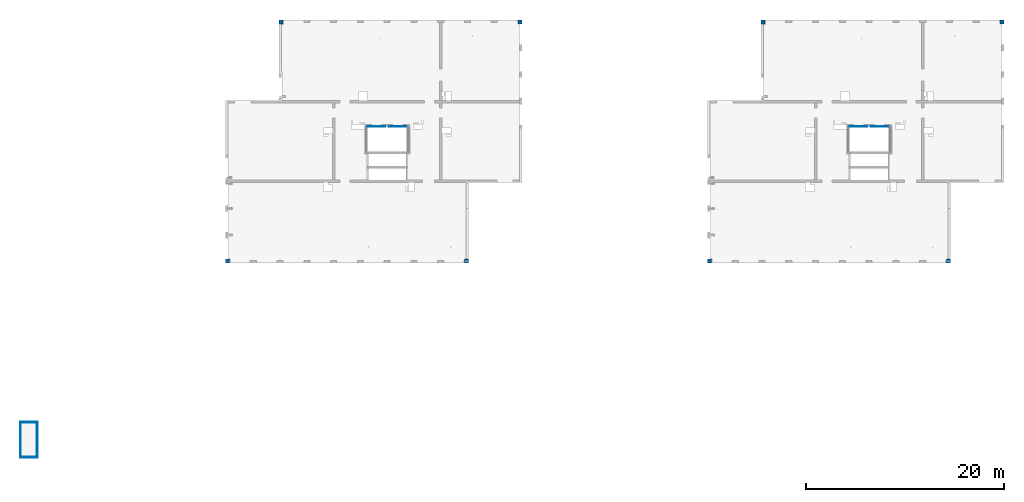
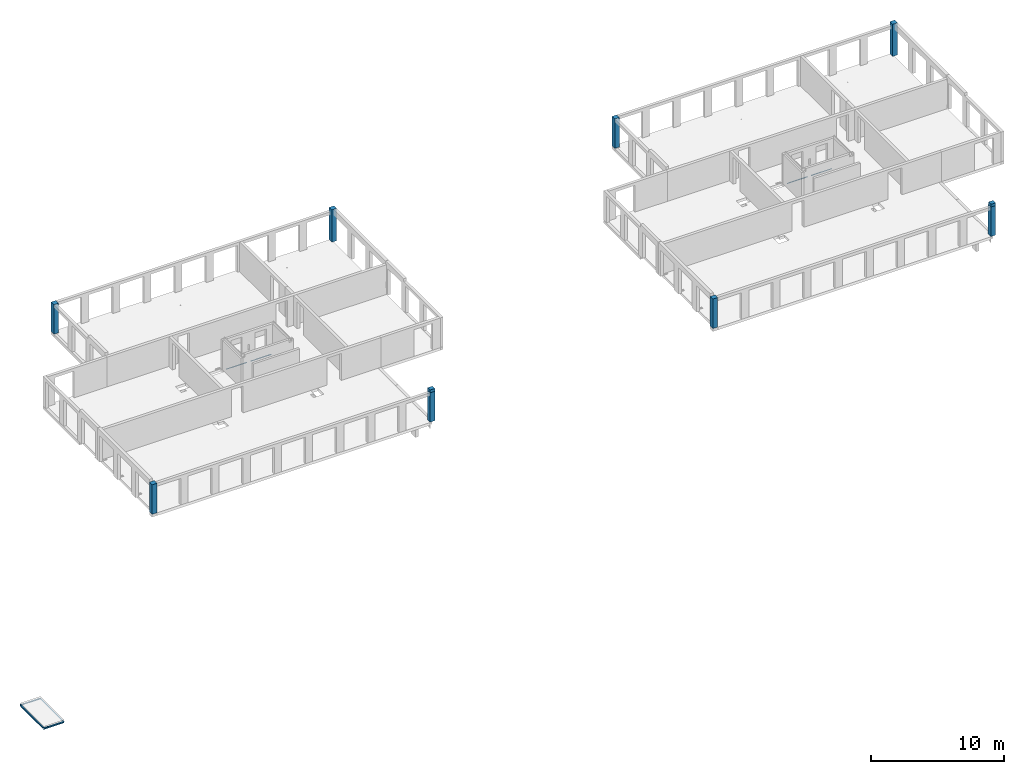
# One storey, part 1 of 12: 10 columns, 8 beams.
"""IFC2X3 building model written with IfcOpenShell, lengths in millimetres."""

from ifc_helpers import new_model, entity, si_unit, converted_unit, derived_unit, direction, frame, frame_2d, origin, origin_2d_with_axis, place, context, subcontext, project, spatial, polyline, circle_curve, parameter, trimmed, segment, composite_curve, rectangle, outline, extrude, source, transform, mapped, material, type_object, type_shapes, element, save


model = new_model("IFC2X3")

# Units and contexts
model_context = context("Model", 3, precision=0.01, world=origin(), true_north=direction((6.12303176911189e-17, 1.0)))
body_context = subcontext(model_context, "Body", "Model", "MODEL_VIEW")
ifc_project = project(units=[si_unit("LENGTHUNIT", "METRE", prefix="MILLI"), si_unit("AREAUNIT", "SQUARE_METRE"), si_unit("VOLUMEUNIT", "CUBIC_METRE"), converted_unit("PLANEANGLEUNIT", "DEGREE", entity("IfcRatioMeasure", 0.0174532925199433), si_unit("PLANEANGLEUNIT", "RADIAN"), dimensions=[0, 0, 0, 0, 0, 0, 0]), si_unit("MASSUNIT", "GRAM", prefix="KILO"), derived_unit("MASSDENSITYUNIT", [(si_unit("MASSUNIT", "GRAM", prefix="KILO"), 1), (si_unit("LENGTHUNIT", "METRE"), -3)]), si_unit("TIMEUNIT", "SECOND"), si_unit("FREQUENCYUNIT", "HERTZ"), si_unit("THERMODYNAMICTEMPERATUREUNIT", "DEGREE_CELSIUS"), derived_unit("THERMALTRANSMITTANCEUNIT", [(si_unit("MASSUNIT", "GRAM", prefix="KILO"), 1), (si_unit("THERMODYNAMICTEMPERATUREUNIT", "KELVIN"), -1), (si_unit("TIMEUNIT", "SECOND"), -3)]), derived_unit("VOLUMETRICFLOWRATEUNIT", [(si_unit("LENGTHUNIT", "METRE"), 3), (si_unit("TIMEUNIT", "SECOND"), -1)]), si_unit("ELECTRICCURRENTUNIT", "AMPERE"), si_unit("ELECTRICVOLTAGEUNIT", "VOLT"), si_unit("POWERUNIT", "WATT"), si_unit("FORCEUNIT", "NEWTON", prefix="KILO"), si_unit("ILLUMINANCEUNIT", "LUX"), si_unit("LUMINOUSFLUXUNIT", "LUMEN"), si_unit("LUMINOUSINTENSITYUNIT", "CANDELA"), derived_unit("USERDEFINED", [(si_unit("MASSUNIT", "GRAM", prefix="KILO"), -1), (si_unit("LENGTHUNIT", "METRE"), -2), (si_unit("TIMEUNIT", "SECOND"), 3), (si_unit("LUMINOUSFLUXUNIT", "LUMEN"), 1)]), derived_unit("LINEARVELOCITYUNIT", [(si_unit("LENGTHUNIT", "METRE"), 1), (si_unit("TIMEUNIT", "SECOND"), -1)]), si_unit("PRESSUREUNIT", "PASCAL"), derived_unit("USERDEFINED", [(si_unit("LENGTHUNIT", "METRE"), -2), (si_unit("MASSUNIT", "GRAM", prefix="KILO"), 1), (si_unit("TIMEUNIT", "SECOND"), -2)])], contexts=[model_context])

# Site, building, storey
site_placement = place(None, origin())
site = spatial("IfcSite", under=ifc_project, at=site_placement, Name="Default", CompositionType="ELEMENT")
building_placement = place(site_placement, origin())
building = spatial("IfcBuilding", under=site, at=building_placement, Name="niet gebruiken", CompositionType="ELEMENT")
storey_placement = place(building_placement, frame((0.0, 0.0, 21510.0)))
storey = spatial("IfcBuildingStorey", under=building, at=storey_placement, Name="07 zevende verdieping", CompositionType="ELEMENT", Elevation=21510.0)

# Columns
ifc_material_1 = material(Name="NLRS_f2_beton prefab")
column_type_1 = type_object("IfcColumnType", Name="410x410", PredefinedType="COLUMN", material=ifc_material_1)
shared_shape_1 = source(origin(), body_context, "Body", "SweptSolid", [
    extrude(rectangle(XDim=410.000000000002, YDim=409.999999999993, at=frame_2d((-4.33431068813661e-12, 0.0), x_axis=(1.0, 0.0))), frame((99795.0, 28961.0, 21440.0), z_axis=(0.0, 0.0, 1.0), x_axis=(0.0, -1.0, 0.0)), (0.0, 0.0, 1.0), 2700.0),
])
type_shapes(column_type_1, [shared_shape_1])
column_1_placement = place(storey_placement, frame((0.0, 0.0, -21510.0)))
element("IfcColumn", 1, at=column_1_placement, inside=storey, type_object=column_type_1, material=ifc_material_1, Name="NLRS_28. kolom vierkant_gen:410x410", ObjectType="410x410", context=body_context, shape_type="MappedRepresentation", body=[
    mapped(shared_shape_1, transform((0.0, 0.0, 0.0), scale=1.0)),
])
column_type_2 = type_object("IfcColumnType", Name="410x410", PredefinedType="COLUMN", material=ifc_material_1)
shared_shape_2 = source(origin(), body_context, "Body", "SweptSolid", [
    extrude(rectangle(XDim=410.0, YDim=410.0, at=origin_2d_with_axis()), frame((0.0, 0.0, 21440.0), z_axis=(0.0, 0.0, 1.0), x_axis=(0.0, -1.0, 0.0)), (0.0, 0.0, 1.0), 2700.0),
])
type_shapes(column_type_2, [shared_shape_2])
for number, where, z_axis, x_axis, name in (
    (2, (75705.0, 28961.0, -21510.0), (0.0, 0.0, 1.0), (0.0, 1.0, 0.0), "NLRS_28. kolom vierkant_gen1:410x410"),
    (3, (27105.0, 28961.0, -21510.0), (0.0, 0.0, 1.0), (0.0, 1.0, 0.0), "NLRS_28. kolom vierkant_gen1:410x410"),
):
    element("IfcColumn", number, at=place(storey_placement, frame(where, z_axis=z_axis, x_axis=x_axis)), inside=storey, type_object=column_type_2, material=ifc_material_1, Name=name, ObjectType="410x410", context=body_context, shape_type="MappedRepresentation", body=[
        mapped(shared_shape_2, transform((0.0, 0.0, 0.0), scale=1.0)),
    ])
column_type_3 = type_object("IfcColumnType", Name="410x410", PredefinedType="COLUMN", material=ifc_material_1)
shared_shape_3 = source(origin(), body_context, "Body", "SweptSolid", [
    extrude(rectangle(XDim=410.000000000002, YDim=409.999999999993, at=origin_2d_with_axis()), frame((105195.0, 53051.0, 21440.0), z_axis=(0.0, 0.0, 1.0), x_axis=(0.0, -1.0, 0.0)), (0.0, 0.0, 1.0), 2950.0),
])
type_shapes(column_type_3, [shared_shape_3])
column_2_placement = place(storey_placement, frame((0.0, 0.0, -21510.0)))
element("IfcColumn", 4, at=column_2_placement, inside=storey, type_object=column_type_3, material=ifc_material_1, Name="NLRS_28. kolom vierkant_gen:410x410", ObjectType="410x410", context=body_context, shape_type="MappedRepresentation", body=[
    mapped(shared_shape_3, transform((0.0, 0.0, 0.0), scale=1.0)),
])
column_type_4 = type_object("IfcColumnType", Name="410x410", PredefinedType="COLUMN", material=ifc_material_1)
shared_shape_4 = source(origin(), body_context, "Body", "SweptSolid", [
    extrude(rectangle(XDim=410.000000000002, YDim=409.999999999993, at=origin_2d_with_axis()), frame((81105.0, 53051.0, 21440.0), z_axis=(0.0, 0.0, 1.0), x_axis=(0.0, -1.0, 0.0)), (0.0, 0.0, 1.0), 2700.0),
])
type_shapes(column_type_4, [shared_shape_4])
column_3_placement = place(storey_placement, frame((0.0, 0.0, -21510.0)))
element("IfcColumn", 5, at=column_3_placement, inside=storey, type_object=column_type_4, material=ifc_material_1, Name="NLRS_28. kolom vierkant_gen:410x410", ObjectType="410x410", context=body_context, shape_type="MappedRepresentation", body=[
    mapped(shared_shape_4, transform((0.0, 0.0, 0.0), scale=1.0)),
])
column_type_5 = type_object("IfcColumnType", Name="410x410", PredefinedType="COLUMN", material=ifc_material_1)
shared_shape_5 = source(origin(), body_context, "Body", "SweptSolid", [
    extrude(rectangle(XDim=410.000000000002, YDim=410.000000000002, at=frame_2d((4.33431068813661e-12, 0.0), x_axis=(1.0, 0.0))), frame((51195.0, 28961.0, 21440.0), z_axis=(0.0, 0.0, 1.0), x_axis=(0.0, -1.0, 0.0)), (0.0, 0.0, 1.0), 2700.0),
])
type_shapes(column_type_5, [shared_shape_5])
column_4_placement = place(storey_placement, frame((0.0, 0.0, -21510.0)))
element("IfcColumn", 6, at=column_4_placement, inside=storey, type_object=column_type_5, material=ifc_material_1, Name="NLRS_28. kolom vierkant_gen:410x410", ObjectType="410x410", context=body_context, shape_type="MappedRepresentation", body=[
    mapped(shared_shape_5, transform((0.0, 0.0, 0.0), scale=1.0)),
])
column_type_6 = type_object("IfcColumnType", Name="410x410", PredefinedType="COLUMN", material=ifc_material_1)
shared_shape_6 = source(origin(), body_context, "Body", "SweptSolid", [
    extrude(rectangle(XDim=410.000000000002, YDim=410.000000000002, at=origin_2d_with_axis()), frame((56595.0, 53051.0, 21440.0), z_axis=(0.0, 0.0, 1.0), x_axis=(0.0, -1.0, 0.0)), (0.0, 0.0, 1.0), 2950.0),
])
type_shapes(column_type_6, [shared_shape_6])
column_5_placement = place(storey_placement, frame((0.0, 0.0, -21510.0)))
element("IfcColumn", 7, at=column_5_placement, inside=storey, type_object=column_type_6, material=ifc_material_1, Name="NLRS_28. kolom vierkant_gen:410x410", ObjectType="410x410", context=body_context, shape_type="MappedRepresentation", body=[
    mapped(shared_shape_6, transform((0.0, 0.0, 0.0), scale=1.0)),
])
column_type_7 = type_object("IfcColumnType", Name="410x410", PredefinedType="COLUMN", material=ifc_material_1)
shared_shape_7 = source(origin(), body_context, "Body", "SweptSolid", [
    extrude(rectangle(XDim=410.000000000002, YDim=409.999999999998, at=frame_2d((8.66862137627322e-12, 0.0), x_axis=(1.0, 0.0))), frame((32505.0, 53051.0, 21440.0), z_axis=(0.0, 0.0, 1.0), x_axis=(0.0, -1.0, 0.0)), (0.0, 0.0, 1.0), 2700.0),
])
type_shapes(column_type_7, [shared_shape_7])
column_6_placement = place(storey_placement, frame((0.0, 0.0, -21510.0)))
element("IfcColumn", 8, at=column_6_placement, inside=storey, type_object=column_type_7, material=ifc_material_1, Name="NLRS_28. kolom vierkant_gen:410x410", ObjectType="410x410", context=body_context, shape_type="MappedRepresentation", body=[
    mapped(shared_shape_7, transform((0.0, 0.0, 0.0), scale=1.0)),
])
column_type_8 = type_object("IfcColumnType", Name="410x360", PredefinedType="COLUMN", material=ifc_material_1)
shared_shape_8 = source(origin(), body_context, "Body", "SweptSolid", [
    extrude(rectangle(XDim=360.0, YDim=409.999999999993, at=origin_2d_with_axis()), frame((99795.0, 28936.0, 24140.0), z_axis=(0.0, 0.0, 1.0), x_axis=(0.0, -1.0, 0.0)), (0.0, 0.0, 1.0), 249.999999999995),
])
type_shapes(column_type_8, [shared_shape_8])
column_7_placement = place(storey_placement, frame((0.0, 0.0, -21510.0)))
element("IfcColumn", 9, at=column_7_placement, inside=storey, type_object=column_type_8, material=ifc_material_1, Name="NLRS_28. kolom vierkant_gen:410x360", ObjectType="410x360", context=body_context, shape_type="MappedRepresentation", body=[
    mapped(shared_shape_8, transform((0.0, 0.0, 0.0), scale=1.0)),
])
column_type_9 = type_object("IfcColumnType", Name="410x360", PredefinedType="COLUMN", material=ifc_material_1)
shared_shape_9 = source(origin(), body_context, "Body", "SweptSolid", [
    extrude(rectangle(XDim=360.0, YDim=410.000000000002, at=origin_2d_with_axis()), frame((51195.0, 28936.0, 24140.0), z_axis=(0.0, 0.0, 1.0), x_axis=(0.0, -1.0, 0.0)), (0.0, 0.0, 1.0), 249.999999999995),
])
type_shapes(column_type_9, [shared_shape_9])
column_8_placement = place(storey_placement, frame((0.0, 0.0, -21510.0)))
element("IfcColumn", 10, at=column_8_placement, inside=storey, type_object=column_type_9, material=ifc_material_1, Name="NLRS_28. kolom vierkant_gen:410x360", ObjectType="410x360", context=body_context, shape_type="MappedRepresentation", body=[
    mapped(shared_shape_9, transform((0.0, 0.0, 0.0), scale=1.0)),
])

# Beams
ifc_material_2 = material(Name="NLRS_h2_staal")
beam_type_1 = type_object("IfcBeamType", Name="NLRS_28.11_SF_WPB_Halfen 40-22_gen:ligger stripstaal RECT_100x10", PredefinedType="BEAM")
beam_1_placement = place(storey_placement, frame((89865.0, 42496.0, -160.0)))
element("IfcBeam", 11, at=beam_1_placement, inside=storey, type_object=beam_type_1, material=ifc_material_2, Name="NLRS_28.11_SF_WPB_Halfen 40-22_gen:ligger stripstaal RECT_100x10", ObjectType="NLRS_28.11_SF_WPB_Halfen 40-22_gen:ligger stripstaal RECT_100x10", context=body_context, shape_type="SweptSolid", body=[
    extrude(outline(polyline([(-20.0, -8.0), (-9.0, -8.0), (-9.0, 0.0), (-11.0, 0.0), (-11.0, -6.0), (-18.0, -6.0), (-18.0, 13.0), (18.0, 13.0), (18.0, -6.0), (11.0, -6.0), (11.0, 0.0), (9.0, 0.0), (9.0, -8.0), (20.0, -8.0), (20.0, 15.0), (-20.0, 15.0), (-20.0, -8.0)])), frame((0.0, 8.0, 20.0), z_axis=(1.0, 0.0, 0.0), x_axis=(0.0, 0.0, -1.0)), (0.0, 0.0, 1.0), 1760.00000000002),
])
beam_2_placement = place(storey_placement, frame((91975.0, 42496.0, -160.0)))
element("IfcBeam", 12, at=beam_2_placement, inside=storey, type_object=beam_type_1, material=ifc_material_2, Name="NLRS_28.11_SF_WPB_Halfen 40-22_gen:ligger stripstaal RECT_100x10", ObjectType="NLRS_28.11_SF_WPB_Halfen 40-22_gen:ligger stripstaal RECT_100x10", context=body_context, shape_type="SweptSolid", body=[
    extrude(outline(polyline([(-20.0, -8.0), (-9.0, -8.0), (-9.0, 0.0), (-11.0, 0.0), (-11.0, -6.0), (-18.0, -6.0), (-18.0, 13.0), (18.0, 13.0), (18.0, -6.0), (11.0, -6.0), (11.0, 0.0), (9.0, 0.0), (9.0, -8.0), (20.0, -8.0), (20.0, 15.0), (-20.0, 15.0), (-20.0, -8.0)])), frame((0.0, 8.0, 20.0), z_axis=(1.0, 0.0, 0.0), x_axis=(0.0, 0.0, -1.0)), (0.0, 0.0, 1.0), 1760.0),
])
for number, where, name in (
    (13, (41264.9998491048, 42496.0, -160.0), "NLRS_28.11_SF_WPB_Halfen 40-22_gen:ligger stripstaal RECT_100x10"),
    (14, (43374.999849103, 42496.0, -160.0), "NLRS_28.11_SF_WPB_Halfen 40-22_gen:ligger stripstaal RECT_100x10"),
):
    element("IfcBeam", number, at=place(storey_placement, frame(where)), inside=storey, type_object=beam_type_1, material=ifc_material_2, Name=name, ObjectType="NLRS_28.11_SF_WPB_Halfen 40-22_gen:ligger stripstaal RECT_100x10", context=body_context, shape_type="SweptSolid", body=[
        extrude(outline(polyline([(-20.0, -8.0), (-9.0, -8.0), (-9.0, 0.0), (-11.0, 0.0), (-11.0, -6.0), (-18.0, -6.0), (-18.0, 13.0), (18.0, 13.0), (18.0, -6.0), (11.0, -6.0), (11.0, 0.0), (9.0, 0.0), (9.0, -8.0), (20.0, -8.0), (20.0, 15.0), (-20.0, 15.0), (-20.0, -8.0)])), frame((0.0, 8.0, 20.0), z_axis=(1.0, 0.0, 0.0), x_axis=(0.0, 0.0, -1.0)), (0.0, 0.0, 1.0), 1760.00000000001),
    ])
beam_type_2 = type_object("IfcBeamType", Name="NLRS_28.11_SF_WPB_stalen ligger hoekprofiel gelijkzijdig_gen:ligger gelijzijdig hoekprofiel LEQU_100x100x10", PredefinedType="BEAM")
beam_3_placement = place(storey_placement, frame((6175.0, 9136.0, -545.0), z_axis=(0.0, 0.0, 1.0), x_axis=(0.0, 1.0, 0.0)))
element("IfcBeam", 15, at=beam_3_placement, inside=storey, type_object=beam_type_2, material=ifc_material_2, Name="NLRS_28.11_SF_WPB_stalen ligger hoekprofiel gelijkzijdig_gen:ligger gelijzijdig hoekprofiel LEQU_100x100x10", ObjectType="NLRS_28.11_SF_WPB_stalen ligger hoekprofiel gelijkzijdig_gen:ligger gelijzijdig hoekprofiel LEQU_100x100x10", context=body_context, shape_type="SweptSolid", body=[
    extrude(outline(composite_curve([segment(polyline([(-37.7777777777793, -62.2222222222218), (-33.7777777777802, -62.2222222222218)]), True, "CONTINUOUS"), segment(trimmed(circle_curve(frame_2d((-33.7777777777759, -56.2222222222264), x_axis=(0.0, -1.0)), 5.99999999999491), [parameter(0.0)], [parameter(90.0000000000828)], True, "PARAMETER"), True, "CONTINUOUS"), segment(polyline([(-27.7777777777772, -56.2222222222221), (-27.7777777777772, 15.7777777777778)]), True, "CONTINUOUS"), segment(trimmed(circle_curve(frame_2d((-15.7777777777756, 15.7777777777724), x_axis=(-1.0, 0.0)), 12.0000000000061), [parameter(270.000000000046)], [parameter(0.0)], True, "PARAMETER"), False, "CONTINUOUS"), segment(polyline([(-15.77777777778, 27.7777777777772), (56.222222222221, 27.7777777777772)]), True, "CONTINUOUS"), segment(trimmed(circle_curve(frame_2d((56.2222222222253, 33.7777777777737), x_axis=(0.0, -1.0)), 5.9999999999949), [parameter(0.0)], [parameter(90.0000000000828)], True, "PARAMETER"), True, "CONTINUOUS"), segment(polyline([(62.2222222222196, 33.777777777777), (62.2222222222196, 37.7777777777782)]), True, "CONTINUOUS"), segment(polyline([(62.2222222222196, 37.7777777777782), (-37.7777777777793, 37.7777777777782)]), True, "CONTINUOUS"), segment(polyline([(-37.7777777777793, 37.7777777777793), (-37.7777777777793, -62.2222222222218)]), True, "CONTINUOUS")], self_intersect=False)), frame((125.0, -37.7777777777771, -37.7777777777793), z_axis=(1.0, 0.0, 0.0), x_axis=(0.0, 0.0, -1.0)), (0.0, 0.0, 1.0), 3350.00000000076),
])
beam_4_placement = place(storey_placement, frame((7975.0, 12736.0, -545.0), z_axis=(0.0, 0.0, 1.0), x_axis=(-1.0, 0.0, 0.0)))
element("IfcBeam", 16, at=beam_4_placement, inside=storey, type_object=beam_type_2, material=ifc_material_2, Name="NLRS_28.11_SF_WPB_stalen ligger hoekprofiel gelijkzijdig_gen:ligger gelijzijdig hoekprofiel LEQU_100x100x10", ObjectType="NLRS_28.11_SF_WPB_stalen ligger hoekprofiel gelijkzijdig_gen:ligger gelijzijdig hoekprofiel LEQU_100x100x10", context=body_context, shape_type="SweptSolid", body=[
    extrude(outline(composite_curve([segment(polyline([(-37.7777777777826, -37.7777777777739), (62.2222222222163, -37.7777777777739)]), True, "CONTINUOUS"), segment(polyline([(62.2222222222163, -37.7777777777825), (62.2222222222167, -33.7777777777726)]), True, "CONTINUOUS"), segment(trimmed(circle_curve(frame_2d((56.2222222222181, -33.7777777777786), x_axis=(1.0, 0.0)), 5.99999999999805), [parameter(0.0)], [parameter(90.0000000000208)], True, "PARAMETER"), True, "CONTINUOUS"), segment(polyline([(56.2222222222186, -27.7777777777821), (-15.7777777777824, -27.7777777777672)]), True, "CONTINUOUS"), segment(trimmed(circle_curve(frame_2d((-15.777777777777, -15.7777777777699), x_axis=(0.0, -1.0)), 12.0000000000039), [parameter(270.000000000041)], [parameter(0.0)], True, "PARAMETER"), False, "CONTINUOUS"), segment(polyline([(-27.7777777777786, -15.7777777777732), (-27.7777777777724, 56.2222222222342)]), True, "CONTINUOUS"), segment(trimmed(circle_curve(frame_2d((-33.7777777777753, 56.2222222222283), x_axis=(1.0, 0.0)), 5.99999999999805), [parameter(0.0)], [parameter(90.0000000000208)], True, "PARAMETER"), True, "CONTINUOUS"), segment(polyline([(-33.7777777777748, 62.2222222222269), (-37.7777777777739, 62.2222222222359)]), True, "CONTINUOUS"), segment(polyline([(-37.7777777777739, 62.2222222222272), (-37.7777777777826, -37.7777777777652)]), True, "CONTINUOUS")], self_intersect=False)), frame((25.0, 37.7777777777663, -37.7777777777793), z_axis=(1.0, 0.0, 0.0), x_axis=(0.0, 0.0, -1.0)), (0.0, 0.0, 1.0), 1749.99999999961),
])
beam_5_placement = place(storey_placement, frame((7975.0, 9136.0, -545.0), z_axis=(0.0, 0.0, 1.0), x_axis=(-1.0, 0.0, 0.0)))
element("IfcBeam", 17, at=beam_5_placement, inside=storey, type_object=beam_type_2, material=ifc_material_2, Name="NLRS_28.11_SF_WPB_stalen ligger hoekprofiel gelijkzijdig_gen:ligger gelijzijdig hoekprofiel LEQU_100x100x10", ObjectType="NLRS_28.11_SF_WPB_stalen ligger hoekprofiel gelijkzijdig_gen:ligger gelijzijdig hoekprofiel LEQU_100x100x10", context=body_context, shape_type="SweptSolid", body=[
    extrude(outline(composite_curve([segment(polyline([(-37.7777777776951, -62.2222222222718), (-33.777777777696, -62.2222222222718)]), True, "CONTINUOUS"), segment(trimmed(circle_curve(frame_2d((-33.7777777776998, -56.2222222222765), x_axis=(0.0, -1.0)), 5.99999999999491), [parameter(0.0)], [parameter(90.0000000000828)], True, "PARAMETER"), True, "CONTINUOUS"), segment(polyline([(-27.7777777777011, -56.2222222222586), (-27.7777777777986, 15.7777777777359)]), True, "CONTINUOUS"), segment(trimmed(circle_curve(frame_2d((-15.777777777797, 15.7777777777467), x_axis=(-1.0, 0.0)), 12.0000000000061), [parameter(270.000000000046)], [parameter(0.0)], True, "PARAMETER"), False, "CONTINUOUS"), segment(polyline([(-15.7777777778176, 27.777777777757), (56.2222222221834, 27.777777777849)]), True, "CONTINUOUS"), segment(trimmed(circle_curve(frame_2d((56.2222222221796, 33.7777777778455), x_axis=(0.0, -1.0)), 5.9999999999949), [parameter(0.0)], [parameter(90.0000000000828)], True, "PARAMETER"), True, "CONTINUOUS"), segment(polyline([(62.2222222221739, 33.7777777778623), (62.2222222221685, 37.7777777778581)]), True, "CONTINUOUS"), segment(polyline([(62.2222222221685, 37.7777777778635), (-37.7777777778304, 37.7777777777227)]), True, "CONTINUOUS"), segment(polyline([(-37.7777777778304, 37.7777777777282), (-37.7777777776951, -62.2222222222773)]), True, "CONTINUOUS")], self_intersect=False)), frame((25.0, -37.7777777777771, -37.7777777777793), z_axis=(1.0, 0.0, 0.0), x_axis=(0.0, 0.0, -1.0)), (0.0, 0.0, 1.0), 1749.99999999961),
])
beam_6_placement = place(storey_placement, frame((7975.0, 9136.0, -545.0), z_axis=(0.0, 0.0, 1.0), x_axis=(0.0, 1.0, 0.0)))
element("IfcBeam", 18, at=beam_6_placement, inside=storey, type_object=beam_type_2, material=ifc_material_2, Name="NLRS_28.11_SF_WPB_stalen ligger hoekprofiel gelijkzijdig_gen:ligger gelijzijdig hoekprofiel LEQU_100x100x10", ObjectType="NLRS_28.11_SF_WPB_stalen ligger hoekprofiel gelijkzijdig_gen:ligger gelijzijdig hoekprofiel LEQU_100x100x10", context=body_context, shape_type="SweptSolid", body=[
    extrude(outline(composite_curve([segment(polyline([(-37.7777777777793, -37.7777777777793), (62.2222222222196, -37.7777777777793)]), True, "CONTINUOUS"), segment(polyline([(62.2222222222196, -37.7777777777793), (62.2222222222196, -33.777777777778)]), True, "CONTINUOUS"), segment(trimmed(circle_curve(frame_2d((56.2222222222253, -33.7777777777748), x_axis=(1.0, 0.0)), 5.9999999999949), [parameter(0.0)], [parameter(90.0000000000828)], True, "PARAMETER"), True, "CONTINUOUS"), segment(polyline([(56.222222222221, -27.7777777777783), (-15.77777777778, -27.7777777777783)]), True, "CONTINUOUS"), segment(trimmed(circle_curve(frame_2d((-15.7777777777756, -15.7777777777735), x_axis=(0.0, -1.0)), 12.0000000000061), [parameter(270.000000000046)], [parameter(0.0)], True, "PARAMETER"), False, "CONTINUOUS"), segment(polyline([(-27.7777777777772, -15.7777777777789), (-27.7777777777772, 56.222222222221)]), True, "CONTINUOUS"), segment(trimmed(circle_curve(frame_2d((-33.7777777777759, 56.2222222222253), x_axis=(1.0, 0.0)), 5.99999999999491), [parameter(0.0)], [parameter(90.0000000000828)], True, "PARAMETER"), True, "CONTINUOUS"), segment(polyline([(-33.7777777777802, 62.2222222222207), (-37.7777777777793, 62.2222222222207)]), True, "CONTINUOUS"), segment(polyline([(-37.7777777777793, 62.2222222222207), (-37.7777777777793, -37.7777777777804)]), True, "CONTINUOUS")], self_intersect=False)), frame((125.0, 37.7777777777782, -37.7777777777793), z_axis=(1.0, 0.0, 0.0), x_axis=(0.0, 0.0, -1.0)), (0.0, 0.0, 1.0), 3350.00000000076),
])

save(model, "model.ifc")
